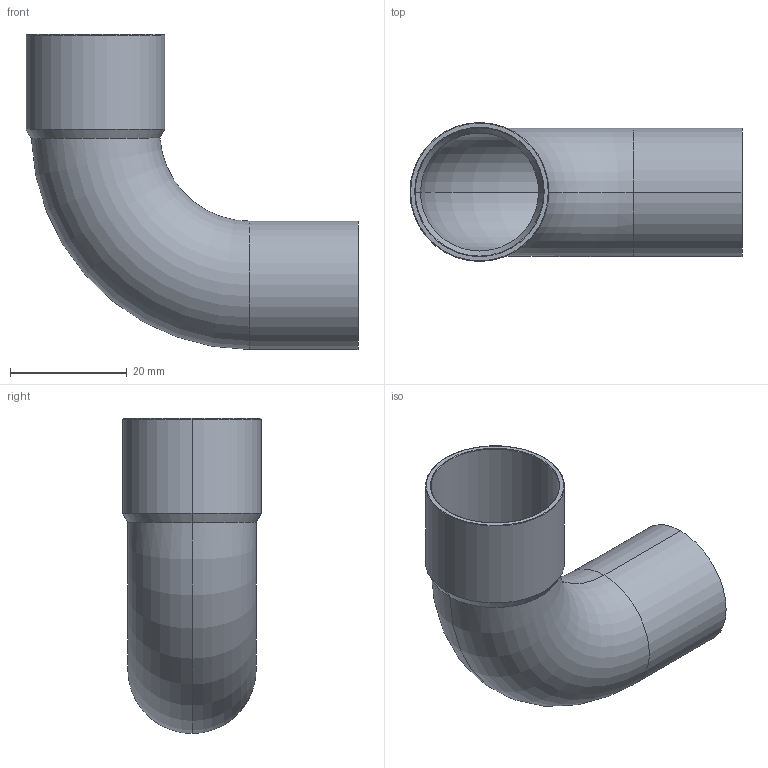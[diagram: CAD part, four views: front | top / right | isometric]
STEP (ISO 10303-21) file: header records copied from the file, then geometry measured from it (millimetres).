
FILE_DESCRIPTION((''),'2;1');
FILE_NAME('P:\Bouwmaten\z-maattekeningen 3D\5000\5001a\15001a22.stp','2005-10-04T14:37:37',('Kris'),(''),'Autodesk Inventor 8','Autodesk Inventor 8','');
FILE_SCHEMA(('AUTOMOTIVE_DESIGN { 1 0 10303 214 1 1 1 1 }'));
Length unit declared in the file: millimetre
Products named in the file (1): 15001a22
Bounding box: 56.9 x 23.8 x 54 mm (x, y, z)
Volume: 4674.2 mm3; surface area: 10504.7 mm2
Topology: 1 solids, 1 shells, 22 faces, 46 edges, 26 vertices
Faces by surface type: cone 8, cylinder 8, torus 4, plane 2
Entity records: 679 total; most frequent: CARTESIAN_POINT 171, DIRECTION 114, ORIENTED_EDGE 92, AXIS2_PLACEMENT_3D 49, EDGE_CURVE 46, VERTEX_POINT 26, CIRCLE 26, EDGE_LOOP 24
